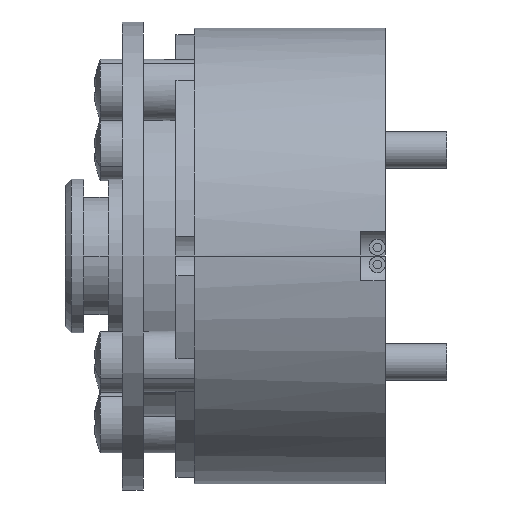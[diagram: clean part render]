
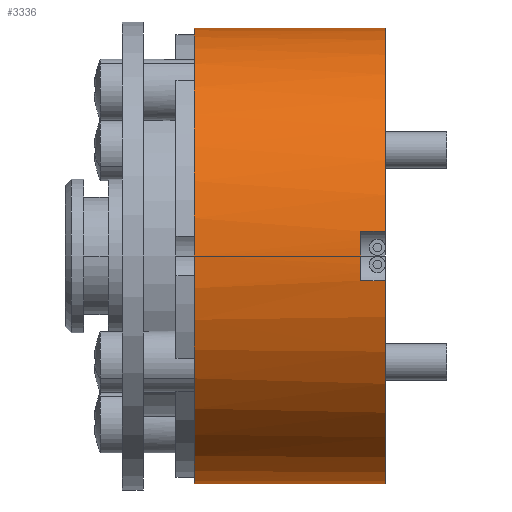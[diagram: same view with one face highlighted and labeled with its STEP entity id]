
A CAD part, front view. The second image highlights one B-rep face of the part: STEP entity #3336.
In plain terms, the highlighted cylindrical face has radius 18.5 mm (diameter 37 mm), a partial arc.
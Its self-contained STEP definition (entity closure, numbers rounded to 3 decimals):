
#203=CARTESIAN_POINT('',(-15.5,0.,0.));
#204=DIRECTION('',(1.,0.,0.));
#205=DIRECTION('',(0.,-0.537,0.843));
#206=AXIS2_PLACEMENT_3D('',#203,#204,#205);
#223=CARTESIAN_POINT('',(-15.5,0.,0.));
#224=DIRECTION('',(1.,0.,0.));
#225=DIRECTION('',(0.,0.,1.));
#226=AXIS2_PLACEMENT_3D('',#223,#224,#225);
#253=CARTESIAN_POINT('',(-15.5,0.,0.));
#254=DIRECTION('',(1.,0.,0.));
#255=DIRECTION('',(0.,-0.843,-0.537));
#256=AXIS2_PLACEMENT_3D('',#253,#254,#255);
#278=CARTESIAN_POINT('',(-15.5,0.,0.));
#279=DIRECTION('',(1.,0.,0.));
#280=DIRECTION('',(0.,-1.,0.));
#281=AXIS2_PLACEMENT_3D('',#278,#279,#280);
#875=CARTESIAN_POINT('',(0.,0.,0.));
#876=DIRECTION('',(1.,0.,0.));
#877=DIRECTION('',(0.,0.,1.));
#878=AXIS2_PLACEMENT_3D('',#875,#876,#877);
#885=CARTESIAN_POINT('',(0.,0.,0.));
#886=DIRECTION('',(1.,0.,0.));
#887=DIRECTION('',(0.,-0.994,-0.108));
#888=AXIS2_PLACEMENT_3D('',#885,#886,#887);
#958=CARTESIAN_POINT('',(-2.,0.,0.));
#959=DIRECTION('',(1.,0.,0.));
#960=DIRECTION('',(0.,-0.994,0.108));
#961=AXIS2_PLACEMENT_3D('',#958,#959,#960);
#963=CARTESIAN_POINT('',(-2.,0.,0.));
#964=DIRECTION('',(1.,0.,0.));
#965=DIRECTION('',(0.,-1.,0.));
#966=AXIS2_PLACEMENT_3D('',#963,#964,#965);
#968=DIRECTION('',(1.,0.,0.));
#969=VECTOR('',#968,2.);
#970=CARTESIAN_POINT('',(-2.,-18.392,-2.));
#971=LINE('',#970,#969);
#972=DIRECTION('',(-1.,0.,0.));
#973=VECTOR('',#972,15.5);
#974=CARTESIAN_POINT('',(0.,0.,18.5));
#975=LINE('',#974,#973);
#976=DIRECTION('',(1.,0.,0.));
#977=VECTOR('',#976,2.);
#978=CARTESIAN_POINT('',(-2.,-18.392,2.));
#979=LINE('',#978,#977);
#980=DIRECTION('',(-1.,0.,0.));
#981=VECTOR('',#980,15.5);
#982=CARTESIAN_POINT('',(0.,0.,-18.5));
#983=LINE('',#982,#981);
#1888=CARTESIAN_POINT('',(0.,0.,-18.5));
#1889=CARTESIAN_POINT('',(0.,0.,18.5));
#1890=VERTEX_POINT('',#1888);
#1891=VERTEX_POINT('',#1889);
#1892=CARTESIAN_POINT('',(-15.5,0.,-18.5));
#1893=VERTEX_POINT('',#1892);
#1894=CARTESIAN_POINT('',(-15.5,0.,18.5));
#1895=VERTEX_POINT('',#1894);
#1921=CARTESIAN_POINT('',(-15.5,-18.5,0.));
#1923=VERTEX_POINT('',#1921);
#1947=CARTESIAN_POINT('',(-15.5,-9.94,15.603));
#1949=VERTEX_POINT('',#1947);
#2123=CARTESIAN_POINT('',(-15.5,-15.603,-9.94));
#2125=VERTEX_POINT('',#2123);
#2270=CARTESIAN_POINT('',(0.,-18.392,-2.));
#2272=VERTEX_POINT('',#2270);
#2274=CARTESIAN_POINT('',(0.,-18.392,2.));
#2276=VERTEX_POINT('',#2274);
#2278=CARTESIAN_POINT('',(-2.,-18.392,-2.));
#2279=VERTEX_POINT('',#2278);
#2280=CARTESIAN_POINT('',(-2.,-18.392,2.));
#2281=VERTEX_POINT('',#2280);
#2283=CARTESIAN_POINT('',(-2.,-18.5,0.));
#2285=VERTEX_POINT('',#2283);
#3314=CARTESIAN_POINT('',(0.,0.,0.));
#3315=DIRECTION('',(1.,0.,0.));
#3316=DIRECTION('',(0.,0.,-1.));
#3317=AXIS2_PLACEMENT_3D('',#3314,#3315,#3316);
#3318=CYLINDRICAL_SURFACE('',#3317,18.5);
#3319=ORIENTED_EDGE('',*,*,#3295,.T.);
#3320=ORIENTED_EDGE('',*,*,#3306,.T.);
#3322=ORIENTED_EDGE('',*,*,#3321,.T.);
#3323=ORIENTED_EDGE('',*,*,#3172,.T.);
#3325=ORIENTED_EDGE('',*,*,#3324,.T.);
#3326=ORIENTED_EDGE('',*,*,#2411,.F.);
#3327=ORIENTED_EDGE('',*,*,#2433,.F.);
#3328=ORIENTED_EDGE('',*,*,#2361,.F.);
#3329=ORIENTED_EDGE('',*,*,#2379,.F.);
#3331=ORIENTED_EDGE('',*,*,#3330,.F.);
#3332=ORIENTED_EDGE('',*,*,#3168,.T.);
#3333=ORIENTED_EDGE('',*,*,#3284,.F.);
#3334=EDGE_LOOP('',(#3319,#3320,#3322,#3323,#3325,#3326,#3327,#3328,#3329,#3331,
#3332,#3333));
#3335=FACE_OUTER_BOUND('',#3334,.F.);
#3336=ADVANCED_FACE('',(#3335),#3318,.T.);
#207=CIRCLE('',#206,18.5);
#227=CIRCLE('',#226,18.5);
#257=CIRCLE('',#256,18.5);
#282=CIRCLE('',#281,18.5);
#879=CIRCLE('',#878,18.5);
#889=CIRCLE('',#888,18.5);
#962=CIRCLE('',#961,18.5);
#967=CIRCLE('',#966,18.5);
#2361=EDGE_CURVE('',#1949,#1923,#207,.T.);
#2379=EDGE_CURVE('',#1895,#1949,#227,.T.);
#2411=EDGE_CURVE('',#2125,#1893,#257,.T.);
#2433=EDGE_CURVE('',#1923,#2125,#282,.T.);
#3168=EDGE_CURVE('',#1891,#2276,#879,.T.);
#3172=EDGE_CURVE('',#2272,#1890,#889,.T.);
#3284=EDGE_CURVE('',#2281,#2276,#979,.T.);
#3295=EDGE_CURVE('',#2281,#2285,#962,.T.);
#3306=EDGE_CURVE('',#2285,#2279,#967,.T.);
#3321=EDGE_CURVE('',#2279,#2272,#971,.T.);
#3324=EDGE_CURVE('',#1890,#1893,#983,.T.);
#3330=EDGE_CURVE('',#1891,#1895,#975,.T.);
